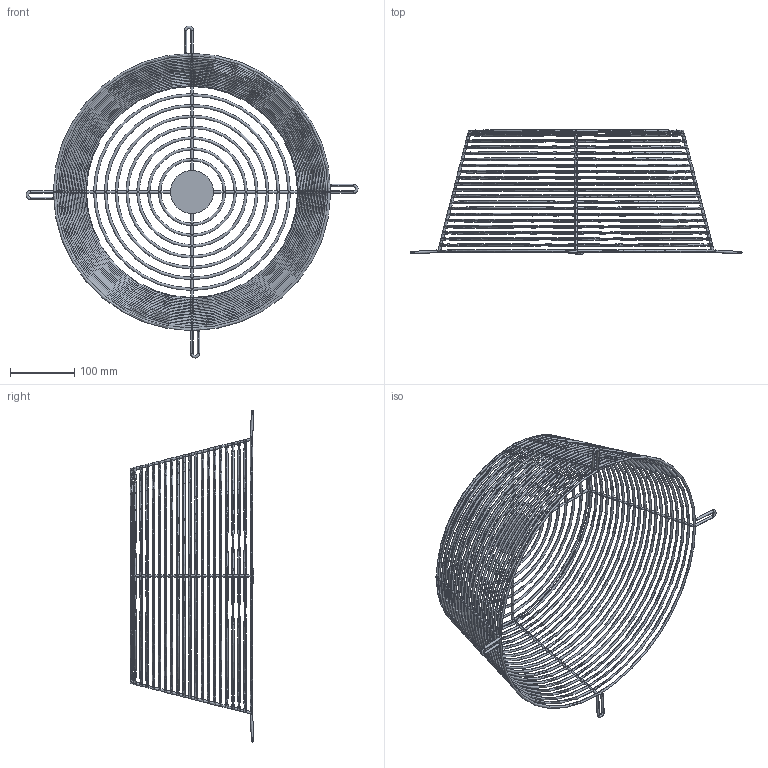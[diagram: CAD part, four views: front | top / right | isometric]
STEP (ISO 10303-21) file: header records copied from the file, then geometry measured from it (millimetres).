
FILE_DESCRIPTION(('STEP AP214'),'1');
FILE_NAME('accessory_5138824900.stp','2017-10-09T10:17:49',('TraceParts'),('TraceParts S.A.'),'Spatial InterOp 3D',' ',' ');
FILE_SCHEMA(('automotive_design'));
Length unit declared in the file: millimetre
Products named in the file (1): accessory_5138824900
Bounding box: 515 x 192 x 515 mm (x, y, z)
Volume: 398497.8 mm3; surface area: 389320.6 mm2
Topology: 1 solids, 1 shells, 236 faces, 1232 edges, 760 vertices
Faces by surface type: torus 140, cylinder 62, plane 26, sphere 8
Entity records: 27782 total; most frequent: CARTESIAN_POINT 17131, ORIENTED_EDGE 2432, DIRECTION 1386, EDGE_CURVE 1216, VERTEX_POINT 760, B_SPLINE_CURVE_WITH_KNOTS 668, AXIS2_PLACEMENT_3D 601, CIRCLE 348
